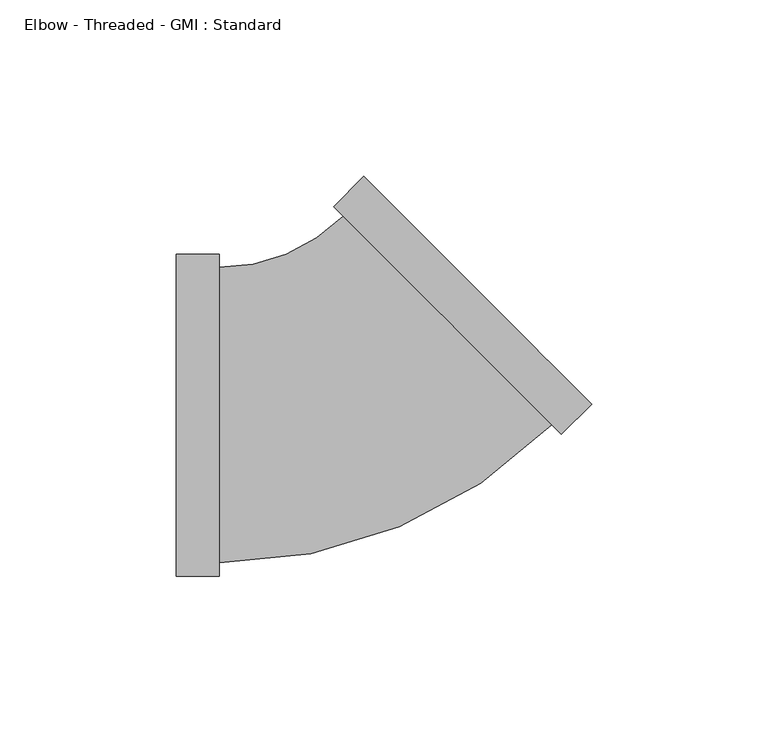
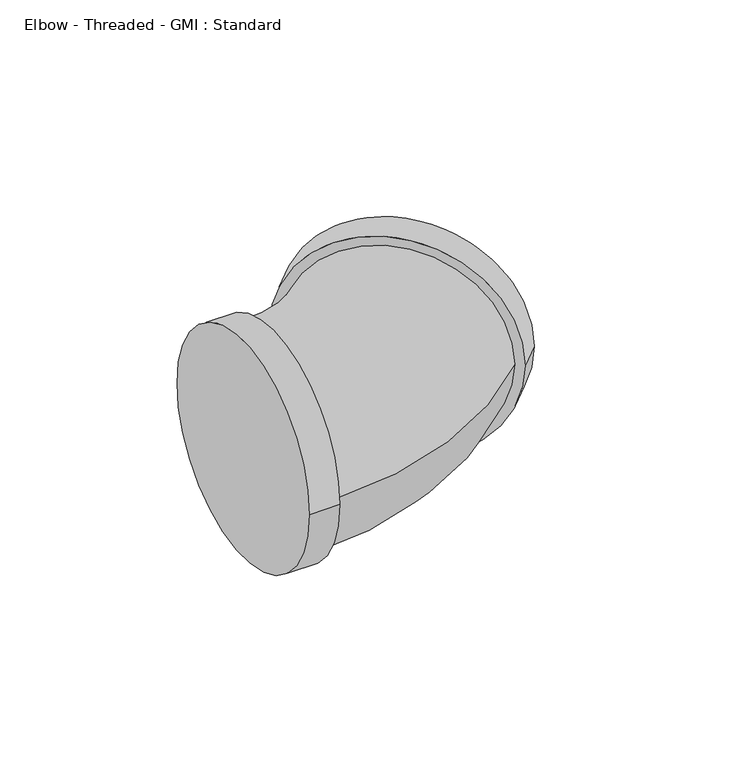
"""IFC4 building model written with IfcOpenShell, lengths in millimetres: pipe fitting geometry, Elbow - Threaded - GMI : Standard."""

from ifc_helpers import new_model, si_unit, point, frame, origin, place, context, project, spatial, circle_curve, ellipse_curve, trimmed, source, transform, mapped, element, save
from ifc_brep_helpers import plane_surface, cylinder_surface, revolved_surface, advanced_brep


def elbow_threaded_gmi_standard_79e06f2a(model_context):
    return source(origin(), model_context, "Body", "AdvancedBrep", [
        advanced_brep(
        [(-50.0, -45.6, 0.0), (-50.0, 45.6, 0.0), (-37.9, -45.6, 0.0), (-37.9, 45.6, 0.0), (-37.9, -41.83, 0.0), (-37.9, 41.83, 0.0), (59.0434162, -5.4447222, 0.0), (-5.4447222, 59.0434162, 0.0), (-2.7789297, 56.3776237, 0.0), (56.3776237, -2.7789297, 0.0), (67.5994083, 3.1112698, 0.0), (3.1112698, 67.5994083, 0.0)],
        [
            (0, 1, circle_curve(frame((-50.0, 0.0, 0.0), z_axis=(-1.0, 0.0, 0.0), x_axis=(0.0, 1.0, 0.0)), 45.6)),
            (1, 0, circle_curve(frame((-50.0, 0.0, 0.0), z_axis=(-1.0, 0.0, 0.0), x_axis=(0.0, 1.0, 0.0)), 45.6)),
            (2, 3, circle_curve(frame((-37.9, 0.0, 0.0), z_axis=(1.0, 0.0, 0.0), x_axis=(0.0, 1.0, 0.0)), 45.6)),
            (3, 2, circle_curve(frame((-37.9, 0.0, 0.0), z_axis=(1.0, 0.0, 0.0), x_axis=(0.0, 1.0, 0.0)), 45.6)),
            (4, 5, circle_curve(frame((-37.9, 0.0, 0.0), z_axis=(-1.0, 0.0, 0.0), x_axis=(0.0, 1.0, 0.0)), 41.83)),
            (5, 4, circle_curve(frame((-37.9, 0.0, 0.0), z_axis=(-1.0, 0.0, 0.0), x_axis=(0.0, 1.0, 0.0)), 41.83)),
            (0, 2),
            (3, 1),
            (6, 7, circle_curve(frame((26.799347, 26.799347, 0.0), z_axis=(-0.7071067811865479, -0.7071067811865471, 0.0), x_axis=(-0.7071067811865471, 0.7071067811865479, 0.0)), 45.6)),
            (7, 6, circle_curve(frame((26.799347, 26.799347, 0.0), z_axis=(-0.7071067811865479, -0.7071067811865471, 0.0), x_axis=(-0.7071067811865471, 0.7071067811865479, 0.0)), 45.6)),
            (8, 9, circle_curve(frame((26.799347, 26.799347, 0.0), z_axis=(0.7071067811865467, 0.7071067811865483, 0.0), x_axis=(-0.7071067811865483, 0.7071067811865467, 0.0)), 41.83)),
            (9, 8, circle_curve(frame((26.799347, 26.799347, 0.0), z_axis=(0.7071067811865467, 0.7071067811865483, 0.0), x_axis=(-0.7071067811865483, 0.7071067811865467, 0.0)), 41.83)),
            (10, 11, circle_curve(frame((35.3553391, 35.3553391, 0.0), z_axis=(0.7071067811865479, 0.7071067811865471, 0.0), x_axis=(-0.7071067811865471, 0.7071067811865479, 0.0)), 45.6)),
            (11, 10, circle_curve(frame((35.3553391, 35.3553391, 0.0), z_axis=(0.7071067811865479, 0.7071067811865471, 0.0), x_axis=(-0.7071067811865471, 0.7071067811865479, 0.0)), 45.6)),
            (6, 10),
            (11, 7),
            (8, 5, circle_curve(frame((-37.9, 91.498694, 0.0), z_axis=(0.0, 0.0, -1.0), x_axis=(0.0, -1.0, 0.0)), 49.668694)),
            (4, 9, circle_curve(frame((-37.9, 91.498694, 0.0), z_axis=(0.0, 0.0, 1.0), x_axis=(0.0, -1.0, 0.0)), 133.328694)),
        ],
        [
            plane_surface(frame((-50.0, 0.0, 0.0), z_axis=(-1.0, 0.0, 0.0), x_axis=(0.0, 0.0, 1.0))),
            plane_surface(frame((-37.9, 0.0, 0.0), z_axis=(1.0, 0.0, 0.0), x_axis=(0.0, 0.0, 1.0))),
            cylinder_surface(frame((-50.0, 0.0, 0.0), z_axis=(-1.0, 0.0, 0.0), x_axis=(0.0, 1.0, 0.0)), 45.6),
            plane_surface(frame((26.799347, 26.799347, 0.0), z_axis=(-0.7071067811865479, -0.7071067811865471, 0.0), x_axis=(0.0, 0.0, 1.0))),
            plane_surface(frame((35.3553391, 35.3553391, 0.0), z_axis=(0.7071067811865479, 0.7071067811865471, 0.0), x_axis=(0.0, 0.0, 1.0))),
            cylinder_surface(frame((26.799347, 26.799347, 0.0), z_axis=(-0.7071067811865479, -0.7071067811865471, 0.0), x_axis=(-0.7071067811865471, 0.7071067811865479, 0.0)), 45.6),
            revolved_surface(trimmed(ellipse_curve(frame((-37.9, 0.0, 0.0), z_axis=(-1.0, 0.0, 0.0), x_axis=(0.0, 1.0, 0.0)), 41.83, 41.83), [point((-37.9, -41.83, 0.0))], [point((-37.9, 41.83, 0.0))], True, "CARTESIAN"), (-37.9, 91.498694, 0.0), (0.0, 0.0, 1.0)),
            revolved_surface(trimmed(ellipse_curve(frame((-37.9, 0.0, 0.0), z_axis=(-1.0, 0.0, 0.0), x_axis=(0.0, 1.0, 0.0)), 41.83, 41.83), [point((-37.9, 41.83, 0.0))], [point((-37.9, -41.83, 0.0))], True, "CARTESIAN"), (-37.9, 91.498694, 0.0), (0.0, 0.0, 1.0)),
        ],
        [
            (0, [[1, 2]]),
            (1, [[3, 4], [5, 6]]),
            (2, [[-1, 7, -4, 8]]),
            (2, [[-2, -8, -3, -7]]),
            (3, [[9, 10], [11, 12]]),
            (4, [[13, 14]]),
            (5, [[-9, 15, -14, 16]]),
            (5, [[-10, -16, -13, -15]]),
            (6, [[17, -5, 18, -11]]),
            (7, [[-17, -12, -18, -6]]),
        ],
    ),
    ])


if __name__ == "__main__":
    model = new_model("IFC4")
    model_context = context("Model", 3, world=origin())
    ifc_project = project(units=[si_unit("LENGTHUNIT", "METRE", prefix="MILLI")], contexts=[model_context])
    site = spatial("IfcSite", under=ifc_project)
    building = spatial("IfcBuilding", under=site)
    placement = place(None, origin())
    elbow_threaded_gmi_standard_shape = elbow_threaded_gmi_standard_79e06f2a(model_context)
    element("IfcPipeFitting", 1, ObjectType="Elbow - Threaded - GMI : Standard", at=placement, inside=building, context=model_context, shape_type="MappedRepresentation", body=[
        mapped(elbow_threaded_gmi_standard_shape, transform((0.0, 0.0, 0.0), x_axis=(1.0, 0.0, 0.0), y_axis=(0.0, 1.0, 0.0), z_axis=(0.0, 0.0, 1.0))),
    ])
    save(model, "model.ifc")
